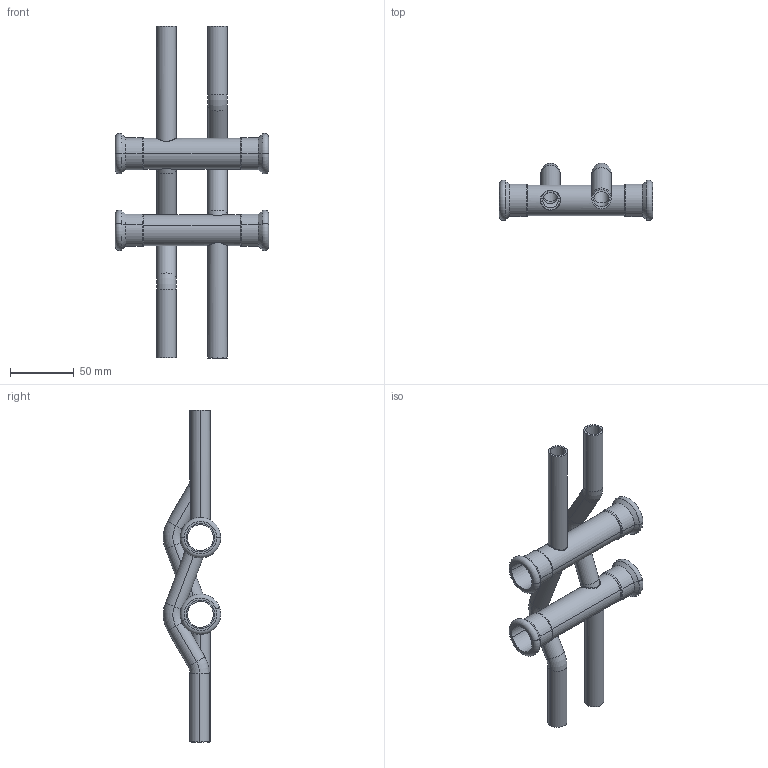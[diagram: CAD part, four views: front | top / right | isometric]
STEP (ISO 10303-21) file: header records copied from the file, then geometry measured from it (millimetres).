
FILE_DESCRIPTION(('CoCreate Modeling STEP Export'),'2;1');
FILE_NAME('C1436 22x15.stp','2015-08-12T10:06:21',(''),(''),'CoCreate Modeling STEP processor for AP214 (Solid Model)','CoCreate Modeling 17.00A 17-Jun-2010 (C) Parametric Technology GmbH','');
FILE_SCHEMA(('AUTOMOTIVE_DESIGN { 1 0 10303 214 1 1 1 1 }'));
Length unit declared in the file: millimetre
Products named in the file (5): 620868.6.1.2; 620868.6.1.1.1; 620862.0.1.1; 620862.0.1; C1436-22x15
Assembly tree (4 placements, depth 2):
  C1436-22x15
    620862.0.1
    620862.0.1.1
    620868.6.1.1.1
    620868.6.1.2
Bounding box: 120 x 44.95 x 260 mm (x, y, z)
Volume: 63383.1 mm3; surface area: 78444 mm2
Topology: 4 solids, 4 shells, 148 faces, 324 edges, 196 vertices
Faces by surface type: cylinder 72, torus 32, plane 20, cone 16, bspline 8
Entity records: 11803 total; most frequent: CARTESIAN_POINT 8905, ORIENTED_EDGE 648, DIRECTION 490, EDGE_CURVE 324, AXIS2_PLACEMENT_3D 201, VERTEX_POINT 196, EDGE_LOOP 176, FACE_OUTER_BOUND 148
